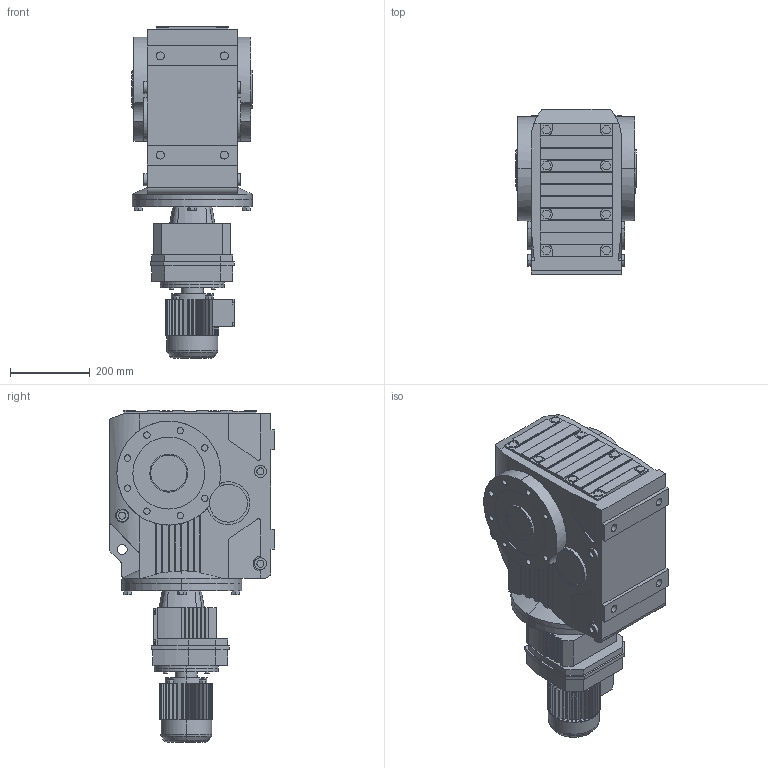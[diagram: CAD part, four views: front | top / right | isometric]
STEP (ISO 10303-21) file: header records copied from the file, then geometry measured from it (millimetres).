
FILE_DESCRIPTION(('Open CASCADE Model'),'2;1');
FILE_NAME('Open CASCADE Shape Model','2021-07-24T16:35:41',('Author'),( 'Open CASCADE'),'Open CASCADE STEP processor 6.3','Open CASCADE 6.3' ,'Unknown');
FILE_SCHEMA(('AUTOMOTIVE_DESIGN_CC2 { 1 2 10303 214 -1 1 5 4 }'));
Length unit declared in the file: millimetre
Products named in the file (5): 1_KA97R57DR63-A; KA37‵107_97.step; 萇儂_160-DR63-185-240-132-105.step; R_97_57.step; す瑩諾陑粣K_97.step
Assembly tree (4 placements, depth 2):
  1_KA97R57DR63-A
    KA37‵107_97.step
    萇儂_160-DR63-185-240-132-105.step
    R_97_57.step
    す瑩諾陑粣K_97.step
Bounding box: 301.5 x 414 x 831 mm (x, y, z)
Volume: 48208853.5 mm3; surface area: 1649104.5 mm2
Topology: 4 solids, 4 shells, 1090 faces, 2868 edges, 1877 vertices
Faces by surface type: plane 744, cylinder 328, cone 14, torus 4
Entity records: 79355 total; most frequent: CARTESIAN_POINT 24961, DIRECTION 9264, ORIENTED_EDGE 5736, PCURVE 5736, DEFINITIONAL_REPRESENTATION 5736, LINE 5155, VECTOR 5155, EDGE_CURVE 2868
